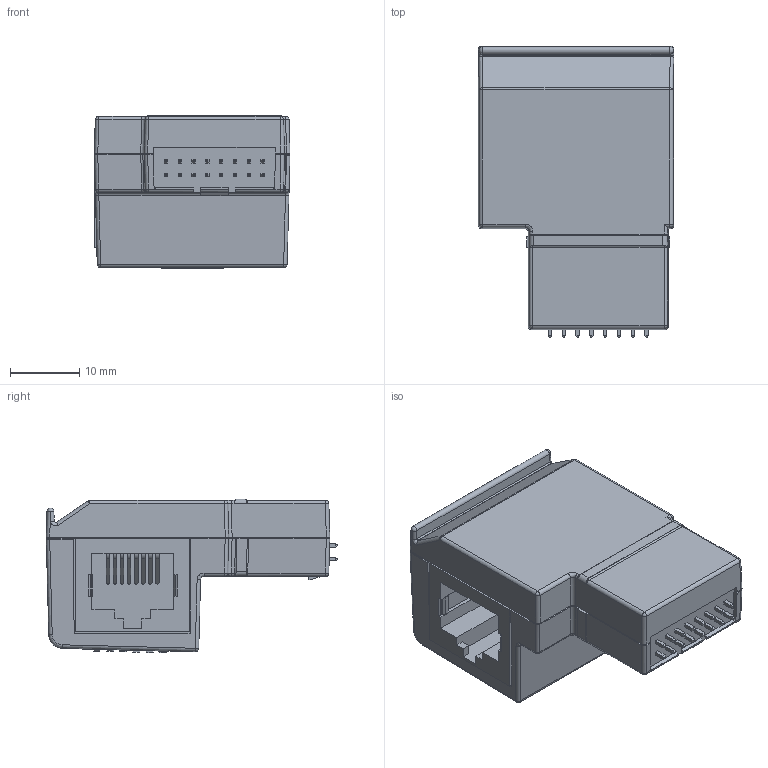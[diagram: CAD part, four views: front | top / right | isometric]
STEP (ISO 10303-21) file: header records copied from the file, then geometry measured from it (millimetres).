
FILE_DESCRIPTION (( 'STEP AP203' ), '1' );
FILE_NAME ('UAG-CX-XB-01.STEP', '2018-01-23T12:34:28', ( 'dell' ), ( '' ), 'SwSTEP 2.0', 'SolidWorks 2015', '' );
FILE_SCHEMA (( 'CONFIG_CONTROL_DESIGN' ));
Length unit declared in the file: millimetre
Products named in the file (1): UAG-CX-XB-01
Bounding box: 28.34 x 42.16 x 22.26 mm (x, y, z)
Volume: 16053 mm3; surface area: 5562.3 mm2
Topology: 1 solids, 7 shells, 597 faces, 1510 edges, 950 vertices
Faces by surface type: plane 407, cylinder 126, bspline 41, sphere 15, cone 8
Entity records: 18244 total; most frequent: CARTESIAN_POINT 4248, ORIENTED_EDGE 3020, DIRECTION 2673, EDGE_CURVE 1510, VECTOR 1137, LINE 1137, VERTEX_POINT 950, AXIS2_PLACEMENT_3D 768
